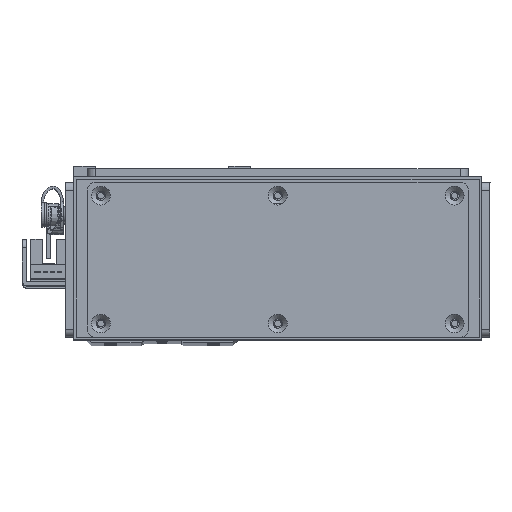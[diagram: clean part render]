
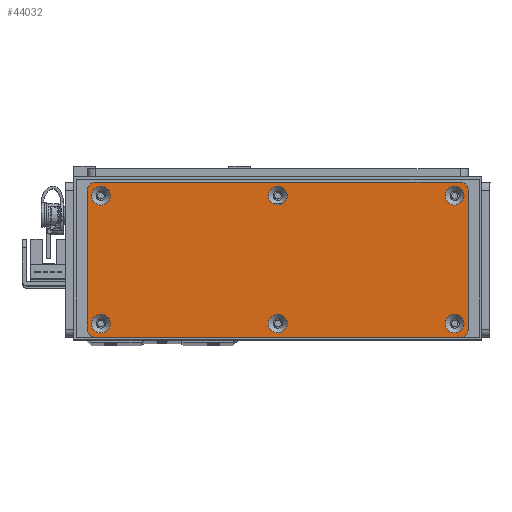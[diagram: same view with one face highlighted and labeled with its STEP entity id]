
A CAD part, top view. The second image highlights one B-rep face of the part: STEP entity #44032.
In plain terms, the highlighted planar face has unit normal (0, 0, 1).
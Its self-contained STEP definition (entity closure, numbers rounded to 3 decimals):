
#1465=FACE_BOUND('',#6631,.T.);
#1466=FACE_BOUND('',#6632,.T.);
#1467=FACE_BOUND('',#6633,.T.);
#1468=FACE_BOUND('',#6634,.T.);
#1469=FACE_BOUND('',#6635,.T.);
#1470=FACE_BOUND('',#6636,.T.);
#2039=PLANE('',#47489);
#4034=FACE_OUTER_BOUND('',#6630,.T.);
#6630=EDGE_LOOP('',(#34077,#34078,#34079,#34080,#34081,#34082,#34083,#34084));
#6631=EDGE_LOOP('',(#34085));
#6632=EDGE_LOOP('',(#34086));
#6633=EDGE_LOOP('',(#34087));
#6634=EDGE_LOOP('',(#34088));
#6635=EDGE_LOOP('',(#34089));
#6636=EDGE_LOOP('',(#34090));
#9618=LINE('',#66973,#14494);
#9621=LINE('',#66981,#14497);
#9624=LINE('',#66989,#14500);
#9627=LINE('',#66996,#14503);
#14494=VECTOR('',#53896,10.);
#14497=VECTOR('',#53905,10.);
#14500=VECTOR('',#53914,10.);
#14503=VECTOR('',#53923,10.);
#18873=CIRCLE('',#47443,3.45);
#18876=CIRCLE('',#47448,3.45);
#18879=CIRCLE('',#47453,3.45);
#18882=CIRCLE('',#47458,3.45);
#18885=CIRCLE('',#47463,3.45);
#18888=CIRCLE('',#47468,3.45);
#18895=CIRCLE('',#47478,3.);
#18896=CIRCLE('',#47481,3.);
#18897=CIRCLE('',#47484,3.);
#18898=CIRCLE('',#47487,3.);
#20730=VERTEX_POINT('',#66889);
#20733=VERTEX_POINT('',#66899);
#20736=VERTEX_POINT('',#66909);
#20739=VERTEX_POINT('',#66919);
#20742=VERTEX_POINT('',#66929);
#20745=VERTEX_POINT('',#66939);
#20756=VERTEX_POINT('',#66966);
#20757=VERTEX_POINT('',#66968);
#20758=VERTEX_POINT('',#66972);
#20759=VERTEX_POINT('',#66976);
#20760=VERTEX_POINT('',#66980);
#20761=VERTEX_POINT('',#66984);
#20762=VERTEX_POINT('',#66988);
#20763=VERTEX_POINT('',#66992);
#25620=EDGE_CURVE('',#20730,#20730,#18873,.T.);
#25625=EDGE_CURVE('',#20733,#20733,#18876,.T.);
#25630=EDGE_CURVE('',#20736,#20736,#18879,.T.);
#25635=EDGE_CURVE('',#20739,#20739,#18882,.T.);
#25640=EDGE_CURVE('',#20742,#20742,#18885,.T.);
#25645=EDGE_CURVE('',#20745,#20745,#18888,.T.);
#25659=EDGE_CURVE('',#20757,#20756,#18895,.T.);
#25661=EDGE_CURVE('',#20758,#20757,#9618,.T.);
#25663=EDGE_CURVE('',#20759,#20758,#18896,.T.);
#25665=EDGE_CURVE('',#20760,#20759,#9621,.T.);
#25667=EDGE_CURVE('',#20761,#20760,#18897,.T.);
#25669=EDGE_CURVE('',#20762,#20761,#9624,.T.);
#25671=EDGE_CURVE('',#20763,#20762,#18898,.T.);
#25673=EDGE_CURVE('',#20756,#20763,#9627,.T.);
#34077=ORIENTED_EDGE('',*,*,#25673,.T.);
#34078=ORIENTED_EDGE('',*,*,#25671,.T.);
#34079=ORIENTED_EDGE('',*,*,#25669,.T.);
#34080=ORIENTED_EDGE('',*,*,#25667,.T.);
#34081=ORIENTED_EDGE('',*,*,#25665,.T.);
#34082=ORIENTED_EDGE('',*,*,#25663,.T.);
#34083=ORIENTED_EDGE('',*,*,#25661,.T.);
#34084=ORIENTED_EDGE('',*,*,#25659,.T.);
#34085=ORIENTED_EDGE('',*,*,#25620,.T.);
#34086=ORIENTED_EDGE('',*,*,#25625,.T.);
#34087=ORIENTED_EDGE('',*,*,#25630,.T.);
#34088=ORIENTED_EDGE('',*,*,#25635,.T.);
#34089=ORIENTED_EDGE('',*,*,#25640,.T.);
#34090=ORIENTED_EDGE('',*,*,#25645,.T.);
#44032=ADVANCED_FACE('',(#4034,#1465,#1466,#1467,#1468,#1469,#1470),#2039,
 .T.);
#47443=AXIS2_PLACEMENT_3D('',#66890,#53804,#53805);
#47448=AXIS2_PLACEMENT_3D('',#66900,#53816,#53817);
#47453=AXIS2_PLACEMENT_3D('',#66910,#53828,#53829);
#47458=AXIS2_PLACEMENT_3D('',#66920,#53840,#53841);
#47463=AXIS2_PLACEMENT_3D('',#66930,#53852,#53853);
#47468=AXIS2_PLACEMENT_3D('',#66940,#53864,#53865);
#47478=AXIS2_PLACEMENT_3D('',#66969,#53891,#53892);
#47481=AXIS2_PLACEMENT_3D('',#66977,#53900,#53901);
#47484=AXIS2_PLACEMENT_3D('',#66985,#53909,#53910);
#47487=AXIS2_PLACEMENT_3D('',#66993,#53918,#53919);
#47489=AXIS2_PLACEMENT_3D('',#66997,#53924,#53925);
#53804=DIRECTION('center_axis',(0.,0.,-1.));
#53805=DIRECTION('ref_axis',(1.,0.,0.));
#53816=DIRECTION('center_axis',(0.,0.,-1.));
#53817=DIRECTION('ref_axis',(1.,0.,0.));
#53828=DIRECTION('center_axis',(0.,0.,-1.));
#53829=DIRECTION('ref_axis',(1.,0.,0.));
#53840=DIRECTION('center_axis',(0.,0.,-1.));
#53841=DIRECTION('ref_axis',(1.,0.,0.));
#53852=DIRECTION('center_axis',(0.,0.,-1.));
#53853=DIRECTION('ref_axis',(1.,0.,0.));
#53864=DIRECTION('center_axis',(0.,0.,-1.));
#53865=DIRECTION('ref_axis',(1.,0.,0.));
#53891=DIRECTION('center_axis',(0.,0.,1.));
#53892=DIRECTION('ref_axis',(0.,1.,0.));
#53896=DIRECTION('',(-1.,0.,0.));
#53900=DIRECTION('center_axis',(0.,0.,1.));
#53901=DIRECTION('ref_axis',(1.,0.,0.));
#53905=DIRECTION('',(0.,1.,0.));
#53909=DIRECTION('center_axis',(0.,0.,1.));
#53910=DIRECTION('ref_axis',(0.,-1.,0.));
#53914=DIRECTION('',(1.,0.,0.));
#53918=DIRECTION('center_axis',(0.,0.,1.));
#53919=DIRECTION('ref_axis',(-1.,0.,0.));
#53923=DIRECTION('',(0.,-1.,0.));
#53924=DIRECTION('center_axis',(0.,0.,1.));
#53925=DIRECTION('ref_axis',(1.,0.,0.));
#66889=CARTESIAN_POINT('',(-3.45,23.5,1.5));
#66890=CARTESIAN_POINT('Origin',(0.,23.5,1.5));
#66899=CARTESIAN_POINT('',(61.55,-23.5,1.5));
#66900=CARTESIAN_POINT('Origin',(65.,-23.5,1.5));
#66909=CARTESIAN_POINT('',(-68.45,23.5,1.5));
#66910=CARTESIAN_POINT('Origin',(-65.,23.5,1.5));
#66919=CARTESIAN_POINT('',(61.55,23.5,1.5));
#66920=CARTESIAN_POINT('Origin',(65.,23.5,1.5));
#66929=CARTESIAN_POINT('',(-68.45,-23.5,1.5));
#66930=CARTESIAN_POINT('Origin',(-65.,-23.5,1.5));
#66939=CARTESIAN_POINT('',(-3.45,-23.5,1.5));
#66940=CARTESIAN_POINT('Origin',(0.,-23.5,1.5));
#66966=CARTESIAN_POINT('',(-70.,25.5,1.5));
#66968=CARTESIAN_POINT('',(-67.,28.5,1.5));
#66969=CARTESIAN_POINT('Origin',(-67.,25.5,1.5));
#66972=CARTESIAN_POINT('',(67.,28.5,1.5));
#66973=CARTESIAN_POINT('',(67.,28.5,1.5));
#66976=CARTESIAN_POINT('',(70.,25.5,1.5));
#66977=CARTESIAN_POINT('Origin',(67.,25.5,1.5));
#66980=CARTESIAN_POINT('',(70.,-25.5,1.5));
#66981=CARTESIAN_POINT('',(70.,-25.5,1.5));
#66984=CARTESIAN_POINT('',(67.,-28.5,1.5));
#66985=CARTESIAN_POINT('Origin',(67.,-25.5,1.5));
#66988=CARTESIAN_POINT('',(-67.,-28.5,1.5));
#66989=CARTESIAN_POINT('',(-67.,-28.5,1.5));
#66992=CARTESIAN_POINT('',(-70.,-25.5,1.5));
#66993=CARTESIAN_POINT('Origin',(-67.,-25.5,1.5));
#66996=CARTESIAN_POINT('',(-70.,25.5,1.5));
#66997=CARTESIAN_POINT('Origin',(0.,0.,
1.5));
